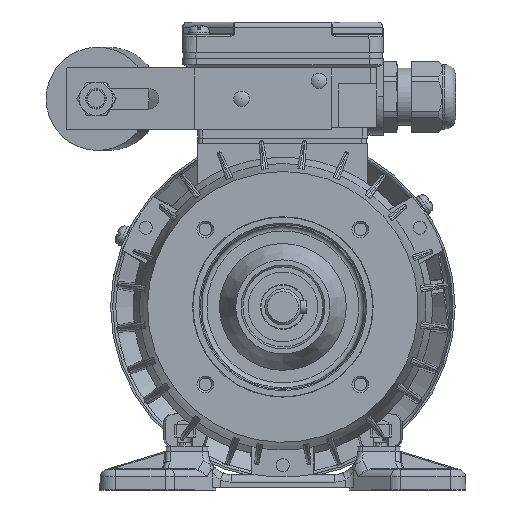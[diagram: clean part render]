
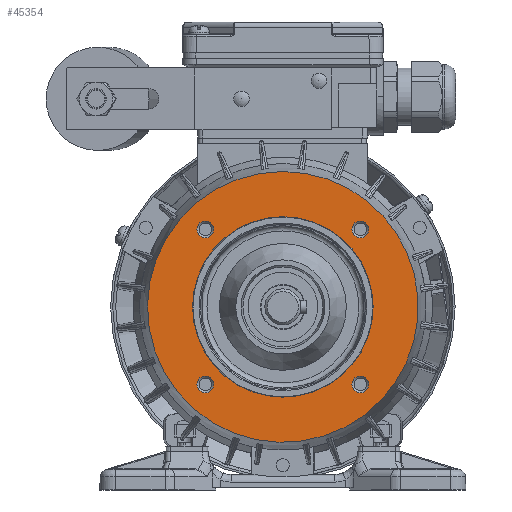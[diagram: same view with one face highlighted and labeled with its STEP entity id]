
A CAD part, front view. The second image highlights one B-rep face of the part: STEP entity #45354.
In plain terms, the highlighted planar face has unit normal (0, -1, 0) as drawn and (-1, 0, 0) by its records, which use the part's own axes.
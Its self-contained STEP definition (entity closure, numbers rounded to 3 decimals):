
#1624=PLANE('',#53647);
#17323=ORIENTED_EDGE('',*,*,#27429,.T.);
#17324=ORIENTED_EDGE('',*,*,#27430,.T.);
#17325=ORIENTED_EDGE('',*,*,#27431,.T.);
#17326=ORIENTED_EDGE('',*,*,#27432,.T.);
#17327=ORIENTED_EDGE('',*,*,#27433,.F.);
#17328=ORIENTED_EDGE('',*,*,#26989,.T.);
#26989=EDGE_CURVE('',#32654,#32654,#35848,.T.);
#27429=EDGE_CURVE('',#32981,#32981,#35998,.T.);
#27430=EDGE_CURVE('',#32982,#32982,#35999,.T.);
#27431=EDGE_CURVE('',#32983,#32983,#36000,.T.);
#27432=EDGE_CURVE('',#32984,#32984,#36001,.T.);
#27433=EDGE_CURVE('',#32985,#32985,#36002,.T.);
#32654=VERTEX_POINT('',#87880);
#32981=VERTEX_POINT('',#89211);
#32982=VERTEX_POINT('',#89213);
#32983=VERTEX_POINT('',#89215);
#32984=VERTEX_POINT('',#89217);
#32985=VERTEX_POINT('',#89219);
#35848=CIRCLE('',#53356,52.5);
#35998=CIRCLE('',#53648,3.259);
#35999=CIRCLE('',#53649,3.259);
#36000=CIRCLE('',#53650,3.259);
#36001=CIRCLE('',#53651,3.259);
#36002=CIRCLE('',#53652,35.);
#38551=EDGE_LOOP('',(#17323));
#38552=EDGE_LOOP('',(#17324));
#38553=EDGE_LOOP('',(#17325));
#38554=EDGE_LOOP('',(#17326));
#38555=EDGE_LOOP('',(#17327));
#38556=EDGE_LOOP('',(#17328));
#41655=FACE_BOUND('',#38551,.T.);
#41656=FACE_BOUND('',#38552,.T.);
#41657=FACE_BOUND('',#38553,.T.);
#41658=FACE_BOUND('',#38554,.T.);
#41659=FACE_BOUND('',#38555,.T.);
#41660=FACE_BOUND('',#38556,.T.);
#45354=ADVANCED_FACE('',(#41655,#41656,#41657,#41658,#41659,#41660),#1624,
 .F.);
#53356=AXIS2_PLACEMENT_3D('',#87879,#61511,#61512);
#53647=AXIS2_PLACEMENT_3D('',#89209,#62269,#62270);
#53648=AXIS2_PLACEMENT_3D('',#89210,#62271,#62272);
#53649=AXIS2_PLACEMENT_3D('',#89212,#62273,#62274);
#53650=AXIS2_PLACEMENT_3D('',#89214,#62275,#62276);
#53651=AXIS2_PLACEMENT_3D('',#89216,#62277,#62278);
#53652=AXIS2_PLACEMENT_3D('',#89218,#62279,#62280);
#61511=DIRECTION('',(-1.,0.,0.));
#61512=DIRECTION('',(0.,0.,1.));
#62269=DIRECTION('',(1.,0.,0.));
#62270=DIRECTION('',(0.,0.,-1.));
#62271=DIRECTION('',(1.,0.,0.));
#62272=DIRECTION('',(0.,-1.,0.));
#62273=DIRECTION('',(1.,0.,0.));
#62274=DIRECTION('',(0.,-1.,0.));
#62275=DIRECTION('',(1.,0.,0.));
#62276=DIRECTION('',(0.,-1.,0.));
#62277=DIRECTION('',(1.,0.,0.));
#62278=DIRECTION('',(0.,-1.,0.));
#62279=DIRECTION('',(-1.,0.,0.));
#62280=DIRECTION('',(0.,0.,1.));
#87879=CARTESIAN_POINT('',(2.5,0.,0.));
#87880=CARTESIAN_POINT('',(2.5,0.,52.5));
#89209=CARTESIAN_POINT('',(2.5,0.,52.5));
#89210=CARTESIAN_POINT('',(2.5,30.052,30.052));
#89211=CARTESIAN_POINT('',(2.5,26.794,30.052));
#89212=CARTESIAN_POINT('',(2.5,30.052,-30.052));
#89213=CARTESIAN_POINT('',(2.5,26.794,-30.052));
#89214=CARTESIAN_POINT('',(2.5,-30.052,-30.052));
#89215=CARTESIAN_POINT('',(2.5,-33.311,-30.052));
#89216=CARTESIAN_POINT('',(2.5,-30.052,30.052));
#89217=CARTESIAN_POINT('',(2.5,-33.311,30.052));
#89218=CARTESIAN_POINT('',(2.5,0.,0.));
#89219=CARTESIAN_POINT('',(2.5,0.,35.));
